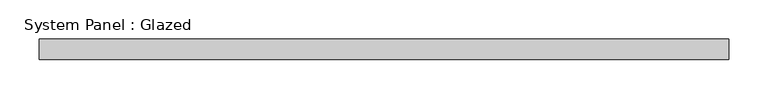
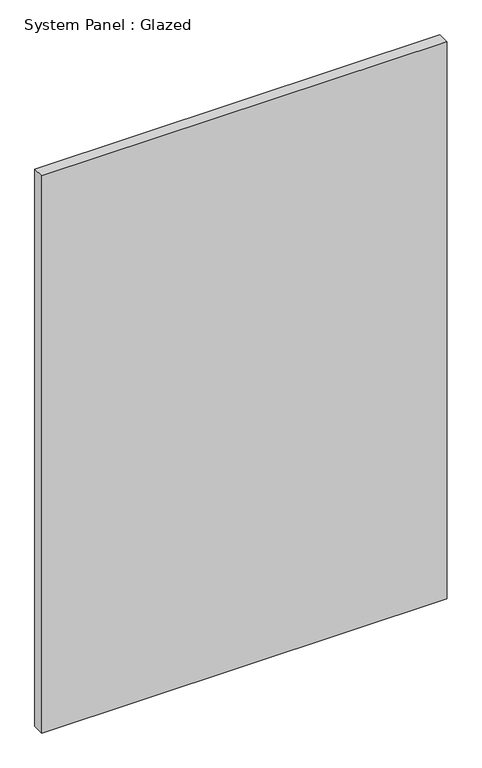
"""IFC4 building model written with IfcOpenShell, lengths in millimetres: plate geometry, System Panel : Glazed."""

import ifcopenshell
import ifcopenshell.guid

model = None  # the IFC model being written
_history = None  # IfcOwnerHistory: only IFC2X3 demands one
_inside = {}  # id of a spatial element -> (the spatial element, [elements in it])
_under = {}  # id of a project, library or spatial element -> (it, [spatial elements below it])
_declared = {}  # id of a project -> (the project, [libraries it declares])
_typed = {}  # id of a type object -> (the type object, [elements of that type])
_made_of = {}  # id of a material, layer set ... -> (it, [elements and type objects made of it])


def new_model(schema):
    """Start an empty IFC model of exactly this schema.

    Asked for "IFC4X3", IfcOpenShell would pick the latest addendum, in which some entities
    have other attributes; the version numbers below select the first issue.
    IFC2X3 requires an IfcOwnerHistory on every rooted entity: one is made here for all.
    """
    global model, _history
    if schema == "IFC4X3":
        model = ifcopenshell.file(schema_version=(4, 3, 0, 0))
    else:
        model = ifcopenshell.file(schema=schema)
    _inside.clear()
    _under.clear()
    _declared.clear()
    _typed.clear()
    _made_of.clear()
    _history = None
    if model.schema == "IFC2X3":
        org = make("IfcOrganization", Name="unknown")
        user = make(
            "IfcPersonAndOrganization",
            ThePerson=make("IfcPerson", FamilyName="unknown"),
            TheOrganization=org,
        )
        app = make(
            "IfcApplication",
            ApplicationDeveloper=org,
            Version="unknown",
            ApplicationFullName="unknown",
            ApplicationIdentifier="unknown",
        )
        _history = make(
            "IfcOwnerHistory",
            OwningUser=user,
            OwningApplication=app,
            ChangeAction="ADDED",
            CreationDate=0,
        )
    return model


def make(cls, **values):
    """One entity of the class cls with the attributes given. An attribute that is None is left unset."""
    return model.create_entity(
        cls, **{name: value for name, value in values.items() if value is not None}
    )


def rooted(cls, **values):
    """An entity with a GlobalId (a new one), such as an element, a storey or a relation."""
    return make(cls, GlobalId=ifcopenshell.guid.new(), OwnerHistory=_history, **values)


def si_unit(unit_type, name, prefix=None):
    """IfcSIUnit, for example si_unit("LENGTHUNIT", "METRE", prefix="MILLI")."""
    return make("IfcSIUnit", UnitType=unit_type, Prefix=prefix, Name=name)


def assignment(units):
    """IfcUnitAssignment: the units of a project."""
    return None if units is None else make("IfcUnitAssignment", Units=units)


def point(xyz):
    """IfcCartesianPoint."""
    return None if xyz is None else make("IfcCartesianPoint", Coordinates=xyz)


def direction(xyz):
    """IfcDirection."""
    return None if xyz is None else make("IfcDirection", DirectionRatios=xyz)


def frame(location, z_axis=None, x_axis=None):
    """IfcAxis2Placement3D, a coordinate frame: its origin and axes. An axis left out is left unset."""
    return make(
        "IfcAxis2Placement3D",
        Location=point(location),
        Axis=direction(z_axis),
        RefDirection=direction(x_axis),
    )


def origin():
    """The frame at (0, 0, 0) with its axes left unset."""
    return frame((0.0, 0.0, 0.0))


def origin_with_axes():
    """The frame at (0, 0, 0) with the z axis (0, 0, 1) and the x axis (1, 0, 0) written out."""
    return frame((0.0, 0.0, 0.0), z_axis=(0.0, 0.0, 1.0), x_axis=(1.0, 0.0, 0.0))


def place(relative_to, where):
    """IfcLocalPlacement: puts the frame where relative to a parent placement (None: the world)."""
    return make(
        "IfcLocalPlacement", PlacementRelTo=relative_to, RelativePlacement=where
    )


def context(
    kind, dimensions, precision=None, world=None, true_north=None, identifier=None
):
    """IfcGeometricRepresentationContext, for example the 3D "Model" context."""
    return make(
        "IfcGeometricRepresentationContext",
        ContextIdentifier=identifier,
        ContextType=kind,
        CoordinateSpaceDimension=dimensions,
        Precision=precision,
        WorldCoordinateSystem=world,
        TrueNorth=true_north,
    )


def project(units=None, contexts=None):
    """IfcProject with its units and contexts."""
    return rooted(
        "IfcProject",
        Name="project",
        RepresentationContexts=contexts,
        UnitsInContext=assignment(units),
    )


def spatial(cls, under=None, at=None, **own):
    """A site, building, storey or space (cls), placed at a placement, below another one or the project."""
    s = rooted(cls, ObjectPlacement=at, **own)
    if under is not None:
        _under.setdefault(under.id(), (under, []))[1].append(s)
    return s


def polyline(points):
    """IfcPolyline through the points."""
    return make("IfcPolyline", Points=[point(p) for p in points])


def outline(outer, holes=None, kind="AREA"):
    """IfcArbitraryClosedProfileDef: a profile drawn as a closed curve; with holes, ...WithVoids."""
    if holes is None:
        return make("IfcArbitraryClosedProfileDef", ProfileType=kind, OuterCurve=outer)
    return make(
        "IfcArbitraryProfileDefWithVoids",
        ProfileType=kind,
        OuterCurve=outer,
        InnerCurves=holes,
    )


def extrude(swept, where, along, depth):
    """IfcExtrudedAreaSolid: the profile swept, set in the frame where, extruded along a direction by depth."""
    return make(
        "IfcExtrudedAreaSolid",
        SweptArea=swept,
        Position=where,
        ExtrudedDirection=direction(along),
        Depth=depth,
    )


def shape(context_of_items, identifier, shape_type, items):
    """IfcShapeRepresentation: the items that make up one representation, for example the "Body"."""
    return make(
        "IfcShapeRepresentation",
        ContextOfItems=context_of_items,
        RepresentationIdentifier=identifier,
        RepresentationType=shape_type,
        Items=items,
    )


def source(mapping_origin, context_of_items, identifier, shape_type, items):
    """IfcRepresentationMap: a shape defined once, which mapped items show again and again."""
    return make(
        "IfcRepresentationMap",
        MappingOrigin=mapping_origin,
        MappedRepresentation=shape(context_of_items, identifier, shape_type, items),
    )


def transform(
    local_origin,
    x_axis=None,
    y_axis=None,
    z_axis=None,
    scale=None,
    scale2=None,
    scale3=None,
    uniform=True,
):
    """IfcCartesianTransformationOperator3D, or its non-uniform kind. x_axis, y_axis, z_axis: its Axis1, 2, 3."""
    if uniform:
        return make(
            "IfcCartesianTransformationOperator3D",
            Axis1=direction(x_axis),
            Axis2=direction(y_axis),
            LocalOrigin=point(local_origin),
            Scale=scale,
            Axis3=direction(z_axis),
        )
    return make(
        "IfcCartesianTransformationOperator3DnonUniform",
        Axis1=direction(x_axis),
        Axis2=direction(y_axis),
        LocalOrigin=point(local_origin),
        Scale=scale,
        Axis3=direction(z_axis),
        Scale2=scale2,
        Scale3=scale3,
    )


def mapped(mapping_source, mapping_target):
    """IfcMappedItem: shows the shape of a source again, moved by a transform."""
    return make(
        "IfcMappedItem", MappingSource=mapping_source, MappingTarget=mapping_target
    )


def made_of(thing, what):
    """Note that an element or type object is made of a material, layer set ...; save() writes the relation."""
    if what is not None:
        _made_of.setdefault(what.id(), (what, []))[1].append(thing)
    return thing


def element(
    cls,
    number,
    at=None,
    inside=None,
    cuts=None,
    type_object=None,
    material=None,
    context=None,
    identifier="Body",
    shape_type=None,
    held_by="IfcProductDefinitionShape",
    body=None,
    shapes=None,
    **own,
):
    """One element of the class cls, such as IfcWall. Its Tag is "e" and its number.

    at: its placement. inside: the storey or other place that contains it. cuts: it is an
    opening in that element (IfcRelVoidsElement). A single representation is given by context,
    identifier, shape_type and body (its items); several are given by shapes. held_by: the class
    of the entity that holds the representations. save() writes the other relations.
    """
    e = rooted(cls, Tag="e%d" % number, ObjectPlacement=at, **own)
    if body is not None:
        shapes = [shape(context, identifier, shape_type, body)]
    if shapes is not None:
        e.Representation = make(held_by, Representations=shapes)
    if inside is not None:
        _inside.setdefault(inside.id(), (inside, []))[1].append(e)
    if cuts is not None:
        rooted(
            "IfcRelVoidsElement", RelatingBuildingElement=cuts, RelatedOpeningElement=e
        )
    if type_object is not None:
        _typed.setdefault(type_object.id(), (type_object, []))[1].append(e)
    return made_of(e, material)


def aggregate(whole, parts):
    """IfcRelAggregates: a whole, such as a stair, and the parts it consists of."""
    return rooted("IfcRelAggregates", RelatingObject=whole, RelatedObjects=parts)


def save(model, path):
    """Write the relations noted so far, then the file.

    IfcRelAggregates (storeys below a building ...), IfcRelContainedInSpatialStructure (elements
    in a storey), IfcRelDefinesByType, IfcRelAssociatesMaterial and IfcRelDeclares: one each for
    every whole, place, type object, material and project.
    """
    for whole, parts in _under.values():
        aggregate(whole, parts)
    for where, things in _inside.values():
        rooted(
            "IfcRelContainedInSpatialStructure",
            RelatedElements=things,
            RelatingStructure=where,
        )
    for kind, things in _typed.values():
        rooted("IfcRelDefinesByType", RelatedObjects=things, RelatingType=kind)
    for what, things in _made_of.values():
        rooted("IfcRelAssociatesMaterial", RelatedObjects=things, RelatingMaterial=what)
    for by, libraries in _declared.values():
        rooted("IfcRelDeclares", RelatingContext=by, RelatedDefinitions=libraries)
    model.write(path)


def system_panel_glazed_f9f6d654(model_context):
    return source(origin(), model_context, "Body", "SweptSolid", [
        extrude(outline(polyline([(436.4181819, 19.05), (-436.4181819, 19.05), (-436.4181819, 44.45), (436.4181819, 44.45), (436.4181819, 19.05)])), origin_with_axes(), (0.0, 0.0, 1.0), 1268.206565),
    ])


if __name__ == "__main__":
    model = new_model("IFC4")
    model_context = context("Model", 3, world=origin())
    ifc_project = project(units=[si_unit("LENGTHUNIT", "METRE", prefix="MILLI")], contexts=[model_context])
    site = spatial("IfcSite", under=ifc_project)
    building = spatial("IfcBuilding", under=site)
    placement = place(None, origin())
    system_panel_glazed_shape = system_panel_glazed_f9f6d654(model_context)
    element("IfcPlate", 1, ObjectType="System Panel : Glazed", at=placement, inside=building, context=model_context, shape_type="MappedRepresentation", body=[
        mapped(system_panel_glazed_shape, transform((0.0, 0.0, 0.0), x_axis=(1.0, 0.0, 0.0), y_axis=(0.0, 1.0, 0.0), z_axis=(0.0, 0.0, 1.0))),
    ])
    save(model, "model.ifc")
